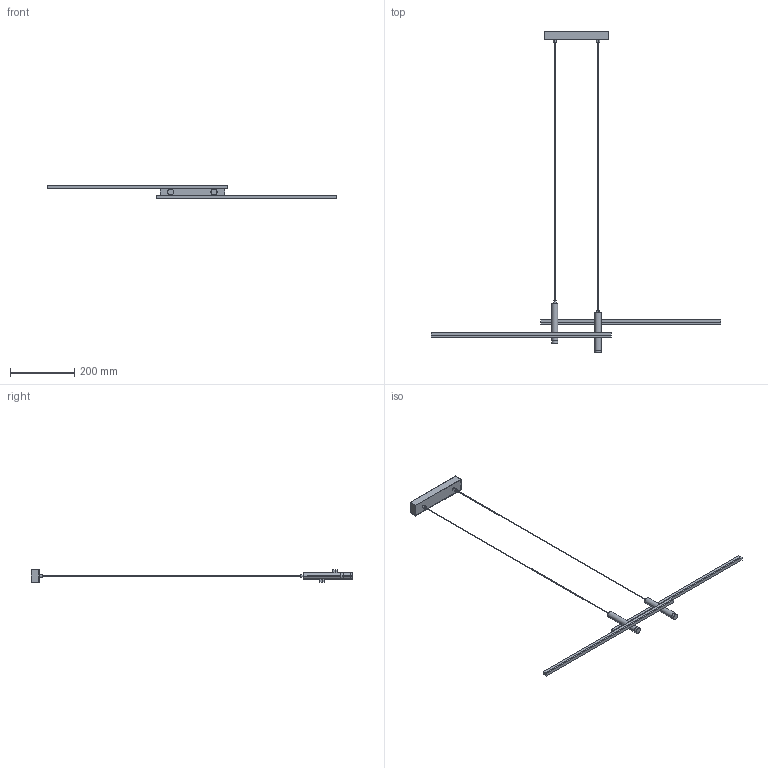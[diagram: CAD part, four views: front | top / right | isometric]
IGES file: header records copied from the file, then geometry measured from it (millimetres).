
Start section: SolidWorks IGES file using analytic representation for surfaces
Global section: file name: F:\燠隴矨\3D\2025-8\Links Island Pendant Light-L90cm.IGS,15; native system: HSolidWorks 2022; preprocessor: SolidWorks 2022; author: MyPC; date: 250806.161417; units: millimetre
Bounding box: 900.02 x 999.91 x 40 mm (x, y, z)
Surface area: 145027.7 mm2 (no closed solid volume)
Topology: 0 solids, 0 shells, 75 faces, 864 edges, 864 vertices
Faces by surface type: bspline 55, revolution 20
